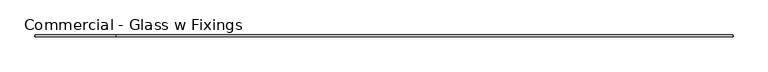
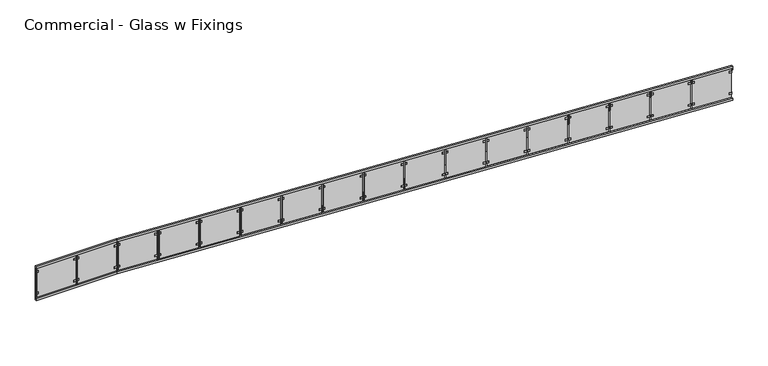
"""IFC4 building model written with IfcOpenShell, lengths in millimetres: railing geometry, Commercial - Glass w Fixings."""

from ifc_helpers import new_model, si_unit, frame, origin, place, context, project, spatial, polyline, outline, extrude, faceted_brep, source, transform, mapped, element, save


def commercial_glass_w_fixings_840375f0(model_context):
    return source(origin(), model_context, "Body", "SolidModel", [
        faceted_brep([(13424.6118628, -11016.1116245, 900.0), (13424.6118628, -11016.1116245, 849.9332611), (13424.6118628, -10966.1116245, 849.9332611), (13424.6118628, -10966.1116245, 900.0), (-2053.7738783, -10966.1116245, 1700.0), (-2053.7738783, -11016.1116245, 1700.0), (-2055.0651409, -10966.1116245, 1650.0), (-2055.0651409, -11016.1116245, 1650.0), (-4095.3881372, -11016.1116245, 1700.0), (-4095.3881372, -10966.1116245, 1700.0), (-4095.3881372, -10966.1116245, 1650.0), (-4095.3881372, -11016.1116245, 1650.0)], [[[0, 1, 2, 3]], [[4, 5, 0, 3]], [[6, 4, 3, 2]], [[7, 6, 2, 1]], [[5, 7, 1, 0]], [[8, 9, 10, 11]], [[9, 8, 5, 4]], [[10, 9, 4, 6]], [[11, 10, 6, 7]], [[8, 11, 7, 5]]]),
        faceted_brep([(13424.6118628, -11016.1116245, 50.0), (13424.6118628, -11016.1116245, -0.0667389), (13424.6118628, -10966.1116245, -0.0667389), (13424.6118628, -10966.1116245, 50.0), (-2053.7738783, -10966.1116245, 850.0), (-2053.7738783, -11016.1116245, 850.0), (-2055.0651409, -10966.1116245, 800.0), (-2055.0651409, -11016.1116245, 800.0), (-4095.3881372, -11016.1116245, 850.0), (-4095.3881372, -10966.1116245, 850.0), (-4095.3881372, -10966.1116245, 800.0), (-4095.3881372, -11016.1116245, 800.0)], [[[0, 1, 2, 3]], [[4, 5, 0, 3]], [[6, 4, 3, 2]], [[7, 6, 2, 1]], [[5, 7, 1, 0]], [[8, 9, 10, 11]], [[9, 8, 5, 4]], [[10, 9, 4, 6]], [[11, 10, 6, 7]], [[8, 11, 7, 5]]]),
        extrude(outline(polyline([(200.9910257, 13408.6656714), (204.0921243, 13348.6656714), (154.0253854, 13348.6656714), (150.9242868, 13408.6656714), (200.9910257, 13408.6656714)])), frame((0.0, -10997.1116245, 0.0), z_axis=(0.0, 1.0, 0.0), x_axis=(0.0, 0.0, 1.0)), (0.0, 0.0, 1.0), 12.0),
        extrude(outline(polyline([(775.6573313, 13408.6656714), (778.7584299, 13348.6656714), (728.691691, 13348.6656714), (725.5905924, 13408.6656714), (775.6573313, 13408.6656714)])), frame((0.0, -10997.1116245, 0.0), z_axis=(0.0, 1.0, 0.0), x_axis=(0.0, 0.0, 1.0)), (0.0, 0.0, 1.0), 12.0),
        extrude(outline(polyline([(202.6092631, 12408.6656714), (200.0250143, 12458.6656714), (250.0917532, 12458.6656714), (252.676002, 12408.6656714), (202.6092631, 12408.6656714)])), frame((0.0, -10997.1116245, 0.0), z_axis=(0.0, 1.0, 0.0), x_axis=(0.0, 0.0, 1.0)), (0.0, 0.0, 1.0), 12.0),
        extrude(outline(polyline([(777.2755687, 12408.6656714), (774.6913199, 12458.6656714), (824.7580588, 12458.6656714), (827.3423076, 12408.6656714), (777.2755687, 12408.6656714)])), frame((0.0, -10997.1116245, 0.0), z_axis=(0.0, 1.0, 0.0), x_axis=(0.0, 0.0, 1.0)), (0.0, 0.0, 1.0), 12.0),
        extrude(outline(polyline([(851.2742894, 13398.6656714), (901.9255662, 12418.6656714), (126.992305, 12418.6656714), (76.3410283, 13398.6656714), (851.2742894, 13398.6656714)])), frame((0.0, -10997.1116245, 0.0), z_axis=(0.0, 1.0, 0.0), x_axis=(0.0, 0.0, 1.0)), (0.0, 0.0, 1.0), 12.0),
        extrude(outline(polyline([(903.9126567, 12380.2194801), (800.0, 12380.2194801), (800.0, 12405.2194801), (902.6205323, 12405.2194801), (903.9126567, 12380.2194801)])), frame((0.0, -11003.6116245, 0.0), z_axis=(0.0, 1.0, 0.0), x_axis=(0.0, 0.0, 1.0)), (0.0, 0.0, 1.0), 25.0),
        extrude(outline(polyline([(254.3243591, 12376.7732887), (257.4254576, 12316.7732887), (207.3587188, 12316.7732887), (204.2576202, 12376.7732887), (254.3243591, 12376.7732887)])), frame((0.0, -10997.1116245, 0.0), z_axis=(0.0, 1.0, 0.0), x_axis=(0.0, 0.0, 1.0)), (0.0, 0.0, 1.0), 12.0),
        extrude(outline(polyline([(828.9906647, 12376.7732887), (832.0917632, 12316.7732887), (782.0250244, 12316.7732887), (778.9239258, 12376.7732887), (828.9906647, 12376.7732887)])), frame((0.0, -10997.1116245, 0.0), z_axis=(0.0, 1.0, 0.0), x_axis=(0.0, 0.0, 1.0)), (0.0, 0.0, 1.0), 12.0),
        extrude(outline(polyline([(255.9425965, 11376.7732887), (253.3583476, 11426.7732887), (303.4250865, 11426.7732887), (306.0093353, 11376.7732887), (255.9425965, 11376.7732887)])), frame((0.0, -10997.1116245, 0.0), z_axis=(0.0, 1.0, 0.0), x_axis=(0.0, 0.0, 1.0)), (0.0, 0.0, 1.0), 12.0),
        extrude(outline(polyline([(830.6089021, 11376.7732887), (828.0246533, 11426.7732887), (878.0913921, 11426.7732887), (880.6756409, 11376.7732887), (830.6089021, 11376.7732887)])), frame((0.0, -10997.1116245, 0.0), z_axis=(0.0, 1.0, 0.0), x_axis=(0.0, 0.0, 1.0)), (0.0, 0.0, 1.0), 12.0),
        extrude(outline(polyline([(904.6076227, 12366.7732887), (955.2588995, 11386.7732887), (180.3256384, 11386.7732887), (129.6743616, 12366.7732887), (904.6076227, 12366.7732887)])), frame((0.0, -10997.1116245, 0.0), z_axis=(0.0, 1.0, 0.0), x_axis=(0.0, 0.0, 1.0)), (0.0, 0.0, 1.0), 12.0),
        extrude(outline(polyline([(957.24599, 11348.3270973), (800.0, 11348.3270973), (800.0, 11373.3270973), (955.9538656, 11373.3270973), (957.24599, 11348.3270973)])), frame((0.0, -11003.6116245, 0.0), z_axis=(0.0, 1.0, 0.0), x_axis=(0.0, 0.0, 1.0)), (0.0, 0.0, 1.0), 25.0),
        extrude(outline(polyline([(307.6576924, 11344.880906), (310.758791, 11284.880906), (260.6920521, 11284.880906), (257.5909535, 11344.880906), (307.6576924, 11344.880906)])), frame((0.0, -10997.1116245, 0.0), z_axis=(0.0, 1.0, 0.0), x_axis=(0.0, 0.0, 1.0)), (0.0, 0.0, 1.0), 12.0),
        extrude(outline(polyline([(882.323998, 11344.880906), (885.4250966, 11284.880906), (835.3583577, 11284.880906), (832.2572591, 11344.880906), (882.323998, 11344.880906)])), frame((0.0, -10997.1116245, 0.0), z_axis=(0.0, 1.0, 0.0), x_axis=(0.0, 0.0, 1.0)), (0.0, 0.0, 1.0), 12.0),
        extrude(outline(polyline([(309.2759298, 10344.880906), (306.691681, 10394.880906), (356.7584199, 10394.880906), (359.3426687, 10344.880906), (309.2759298, 10344.880906)])), frame((0.0, -10997.1116245, 0.0), z_axis=(0.0, 1.0, 0.0), x_axis=(0.0, 0.0, 1.0)), (0.0, 0.0, 1.0), 12.0),
        extrude(outline(polyline([(883.9422354, 10344.880906), (881.3579866, 10394.880906), (931.4247255, 10394.880906), (934.0089743, 10344.880906), (883.9422354, 10344.880906)])), frame((0.0, -10997.1116245, 0.0), z_axis=(0.0, 1.0, 0.0), x_axis=(0.0, 0.0, 1.0)), (0.0, 0.0, 1.0), 12.0),
        extrude(outline(polyline([(957.9409561, 11334.880906), (1008.5922328, 10354.880906), (233.6589717, 10354.880906), (183.007695, 11334.880906), (957.9409561, 11334.880906)])), frame((0.0, -10997.1116245, 0.0), z_axis=(0.0, 1.0, 0.0), x_axis=(0.0, 0.0, 1.0)), (0.0, 0.0, 1.0), 12.0),
        extrude(outline(polyline([(1010.5793233, 10316.4347146), (800.0, 10316.4347146), (800.0, 10341.4347146), (1009.2871989, 10341.4347146), (1010.5793233, 10316.4347146)])), frame((0.0, -11003.6116245, 0.0), z_axis=(0.0, 1.0, 0.0), x_axis=(0.0, 0.0, 1.0)), (0.0, 0.0, 1.0), 25.0),
        extrude(outline(polyline([(360.9910257, 10312.9885232), (364.0921243, 10252.9885232), (314.0253854, 10252.9885232), (310.9242868, 10312.9885232), (360.9910257, 10312.9885232)])), frame((0.0, -10997.1116245, 0.0), z_axis=(0.0, 1.0, 0.0), x_axis=(0.0, 0.0, 1.0)), (0.0, 0.0, 1.0), 12.0),
        extrude(outline(polyline([(935.6573313, 10312.9885232), (938.7584299, 10252.9885232), (888.691691, 10252.9885232), (885.5905924, 10312.9885232), (935.6573313, 10312.9885232)])), frame((0.0, -10997.1116245, 0.0), z_axis=(0.0, 1.0, 0.0), x_axis=(0.0, 0.0, 1.0)), (0.0, 0.0, 1.0), 12.0),
        extrude(outline(polyline([(362.6092631, 9312.9885232), (360.0250143, 9362.9885232), (410.0917532, 9362.9885232), (412.676002, 9312.9885232), (362.6092631, 9312.9885232)])), frame((0.0, -10997.1116245, 0.0), z_axis=(0.0, 1.0, 0.0), x_axis=(0.0, 0.0, 1.0)), (0.0, 0.0, 1.0), 12.0),
        extrude(outline(polyline([(937.2755687, 9312.9885232), (934.6913199, 9362.9885232), (984.7580588, 9362.9885232), (987.3423076, 9312.9885232), (937.2755687, 9312.9885232)])), frame((0.0, -10997.1116245, 0.0), z_axis=(0.0, 1.0, 0.0), x_axis=(0.0, 0.0, 1.0)), (0.0, 0.0, 1.0), 12.0),
        extrude(outline(polyline([(1011.2742894, 10302.9885232), (1061.9255662, 9322.9885232), (286.992305, 9322.9885232), (236.3410283, 10302.9885232), (1011.2742894, 10302.9885232)])), frame((0.0, -10997.1116245, 0.0), z_axis=(0.0, 1.0, 0.0), x_axis=(0.0, 0.0, 1.0)), (0.0, 0.0, 1.0), 12.0),
        extrude(outline(polyline([(1063.9126567, 9284.5423319), (800.0, 9284.5423319), (800.0, 9309.5423319), (1062.6205323, 9309.5423319), (1063.9126567, 9284.5423319)])), frame((0.0, -11003.6116245, 0.0), z_axis=(0.0, 1.0, 0.0), x_axis=(0.0, 0.0, 1.0)), (0.0, 0.0, 1.0), 25.0),
        extrude(outline(polyline([(414.3243591, 9281.0961405), (417.4254576, 9221.0961405), (367.3587188, 9221.0961405), (364.2576202, 9281.0961405), (414.3243591, 9281.0961405)])), frame((0.0, -10997.1116245, 0.0), z_axis=(0.0, 1.0, 0.0), x_axis=(0.0, 0.0, 1.0)), (0.0, 0.0, 1.0), 12.0),
        extrude(outline(polyline([(988.9906647, 9281.0961405), (992.0917632, 9221.0961405), (942.0250244, 9221.0961405), (938.9239258, 9281.0961405), (988.9906647, 9281.0961405)])), frame((0.0, -10997.1116245, 0.0), z_axis=(0.0, 1.0, 0.0), x_axis=(0.0, 0.0, 1.0)), (0.0, 0.0, 1.0), 12.0),
        extrude(outline(polyline([(415.9425965, 8281.0961405), (413.3583476, 8331.0961405), (463.4250865, 8331.0961405), (466.0093353, 8281.0961405), (415.9425965, 8281.0961405)])), frame((0.0, -10997.1116245, 0.0), z_axis=(0.0, 1.0, 0.0), x_axis=(0.0, 0.0, 1.0)), (0.0, 0.0, 1.0), 12.0),
        extrude(outline(polyline([(990.6089021, 8281.0961405), (988.0246533, 8331.0961405), (1038.0913921, 8331.0961405), (1040.6756409, 8281.0961405), (990.6089021, 8281.0961405)])), frame((0.0, -10997.1116245, 0.0), z_axis=(0.0, 1.0, 0.0), x_axis=(0.0, 0.0, 1.0)), (0.0, 0.0, 1.0), 12.0),
        extrude(outline(polyline([(1064.6076227, 9271.0961405), (1115.2588995, 8291.0961405), (340.3256384, 8291.0961405), (289.6743616, 9271.0961405), (1064.6076227, 9271.0961405)])), frame((0.0, -10997.1116245, 0.0), z_axis=(0.0, 1.0, 0.0), x_axis=(0.0, 0.0, 1.0)), (0.0, 0.0, 1.0), 12.0),
        extrude(outline(polyline([(1117.24599, 8252.6499491), (800.0, 8252.6499491), (800.0, 8277.6499491), (1115.9538656, 8277.6499491), (1117.24599, 8252.6499491)])), frame((0.0, -11003.6116245, 0.0), z_axis=(0.0, 1.0, 0.0), x_axis=(0.0, 0.0, 1.0)), (0.0, 0.0, 1.0), 25.0),
        extrude(outline(polyline([(467.6576924, 8249.2037577), (470.758791, 8189.2037577), (420.6920521, 8189.2037577), (417.5909535, 8249.2037577), (467.6576924, 8249.2037577)])), frame((0.0, -10997.1116245, 0.0), z_axis=(0.0, 1.0, 0.0), x_axis=(0.0, 0.0, 1.0)), (0.0, 0.0, 1.0), 12.0),
        extrude(outline(polyline([(1042.323998, 8249.2037577), (1045.4250966, 8189.2037577), (995.3583577, 8189.2037577), (992.2572591, 8249.2037577), (1042.323998, 8249.2037577)])), frame((0.0, -10997.1116245, 0.0), z_axis=(0.0, 1.0, 0.0), x_axis=(0.0, 0.0, 1.0)), (0.0, 0.0, 1.0), 12.0),
        extrude(outline(polyline([(469.2759298, 7249.2037577), (466.691681, 7299.2037577), (516.7584199, 7299.2037577), (519.3426687, 7249.2037577), (469.2759298, 7249.2037577)])), frame((0.0, -10997.1116245, 0.0), z_axis=(0.0, 1.0, 0.0), x_axis=(0.0, 0.0, 1.0)), (0.0, 0.0, 1.0), 12.0),
        extrude(outline(polyline([(1043.9422354, 7249.2037577), (1041.3579866, 7299.2037577), (1091.4247255, 7299.2037577), (1094.0089743, 7249.2037577), (1043.9422354, 7249.2037577)])), frame((0.0, -10997.1116245, 0.0), z_axis=(0.0, 1.0, 0.0), x_axis=(0.0, 0.0, 1.0)), (0.0, 0.0, 1.0), 12.0),
        extrude(outline(polyline([(1117.9409561, 8239.2037577), (1168.5922328, 7259.2037577), (393.6589717, 7259.2037577), (343.007695, 8239.2037577), (1117.9409561, 8239.2037577)])), frame((0.0, -10997.1116245, 0.0), z_axis=(0.0, 1.0, 0.0), x_axis=(0.0, 0.0, 1.0)), (0.0, 0.0, 1.0), 12.0),
        extrude(outline(polyline([(1170.5793233, 7220.7575664), (800.0, 7220.7575664), (800.0, 7245.7575664), (1169.2871989, 7245.7575664), (1170.5793233, 7220.7575664)])), frame((0.0, -11003.6116245, 0.0), z_axis=(0.0, 1.0, 0.0), x_axis=(0.0, 0.0, 1.0)), (0.0, 0.0, 1.0), 25.0),
        extrude(outline(polyline([(520.9910257, 7217.311375), (524.0921243, 7157.311375), (474.0253854, 7157.311375), (470.9242868, 7217.311375), (520.9910257, 7217.311375)])), frame((0.0, -10997.1116245, 0.0), z_axis=(0.0, 1.0, 0.0), x_axis=(0.0, 0.0, 1.0)), (0.0, 0.0, 1.0), 12.0),
        extrude(outline(polyline([(1095.6573313, 7217.311375), (1098.7584299, 7157.311375), (1048.691691, 7157.311375), (1045.5905924, 7217.311375), (1095.6573313, 7217.311375)])), frame((0.0, -10997.1116245, 0.0), z_axis=(0.0, 1.0, 0.0), x_axis=(0.0, 0.0, 1.0)), (0.0, 0.0, 1.0), 12.0),
        extrude(outline(polyline([(522.6092631, 6217.311375), (520.0250143, 6267.311375), (570.0917532, 6267.311375), (572.676002, 6217.311375), (522.6092631, 6217.311375)])), frame((0.0, -10997.1116245, 0.0), z_axis=(0.0, 1.0, 0.0), x_axis=(0.0, 0.0, 1.0)), (0.0, 0.0, 1.0), 12.0),
        extrude(outline(polyline([(1097.2755687, 6217.311375), (1094.6913199, 6267.311375), (1144.7580588, 6267.311375), (1147.3423076, 6217.311375), (1097.2755687, 6217.311375)])), frame((0.0, -10997.1116245, 0.0), z_axis=(0.0, 1.0, 0.0), x_axis=(0.0, 0.0, 1.0)), (0.0, 0.0, 1.0), 12.0),
        extrude(outline(polyline([(1171.2742894, 7207.311375), (1221.9255662, 6227.311375), (446.992305, 6227.311375), (396.3410283, 7207.311375), (1171.2742894, 7207.311375)])), frame((0.0, -10997.1116245, 0.0), z_axis=(0.0, 1.0, 0.0), x_axis=(0.0, 0.0, 1.0)), (0.0, 0.0, 1.0), 12.0),
        extrude(outline(polyline([(1223.9126567, 6188.8651836), (800.0, 6188.8651836), (800.0, 6213.8651836), (1222.6205323, 6213.8651836), (1223.9126567, 6188.8651836)])), frame((0.0, -11003.6116245, 0.0), z_axis=(0.0, 1.0, 0.0), x_axis=(0.0, 0.0, 1.0)), (0.0, 0.0, 1.0), 25.0),
        extrude(outline(polyline([(574.3243591, 6185.4189923), (577.4254576, 6125.4189923), (527.3587188, 6125.4189923), (524.2576202, 6185.4189923), (574.3243591, 6185.4189923)])), frame((0.0, -10997.1116245, 0.0), z_axis=(0.0, 1.0, 0.0), x_axis=(0.0, 0.0, 1.0)), (0.0, 0.0, 1.0), 12.0),
        extrude(outline(polyline([(1148.9906647, 6185.4189923), (1152.0917632, 6125.4189923), (1102.0250244, 6125.4189923), (1098.9239258, 6185.4189923), (1148.9906647, 6185.4189923)])), frame((0.0, -10997.1116245, 0.0), z_axis=(0.0, 1.0, 0.0), x_axis=(0.0, 0.0, 1.0)), (0.0, 0.0, 1.0), 12.0),
        extrude(outline(polyline([(575.9425965, 5185.4189923), (573.3583476, 5235.4189923), (623.4250865, 5235.4189923), (626.0093353, 5185.4189923), (575.9425965, 5185.4189923)])), frame((0.0, -10997.1116245, 0.0), z_axis=(0.0, 1.0, 0.0), x_axis=(0.0, 0.0, 1.0)), (0.0, 0.0, 1.0), 12.0),
        extrude(outline(polyline([(1150.6089021, 5185.4189923), (1148.0246533, 5235.4189923), (1198.0913921, 5235.4189923), (1200.6756409, 5185.4189923), (1150.6089021, 5185.4189923)])), frame((0.0, -10997.1116245, 0.0), z_axis=(0.0, 1.0, 0.0), x_axis=(0.0, 0.0, 1.0)), (0.0, 0.0, 1.0), 12.0),
        extrude(outline(polyline([(1224.6076227, 6175.4189923), (1275.2588995, 5195.4189923), (500.3256384, 5195.4189923), (449.6743616, 6175.4189923), (1224.6076227, 6175.4189923)])), frame((0.0, -10997.1116245, 0.0), z_axis=(0.0, 1.0, 0.0), x_axis=(0.0, 0.0, 1.0)), (0.0, 0.0, 1.0), 12.0),
        extrude(outline(polyline([(1277.24599, 5156.9728009), (800.0, 5156.9728009), (800.0, 5181.9728009), (1275.9538656, 5181.9728009), (1277.24599, 5156.9728009)])), frame((0.0, -11003.6116245, 0.0), z_axis=(0.0, 1.0, 0.0), x_axis=(0.0, 0.0, 1.0)), (0.0, 0.0, 1.0), 25.0),
        extrude(outline(polyline([(627.6576924, 5153.5266095), (630.758791, 5093.5266095), (580.6920521, 5093.5266095), (577.5909535, 5153.5266095), (627.6576924, 5153.5266095)])), frame((0.0, -10997.1116245, 0.0), z_axis=(0.0, 1.0, 0.0), x_axis=(0.0, 0.0, 1.0)), (0.0, 0.0, 1.0), 12.0),
        extrude(outline(polyline([(1202.323998, 5153.5266095), (1205.4250966, 5093.5266095), (1155.3583577, 5093.5266095), (1152.2572591, 5153.5266095), (1202.323998, 5153.5266095)])), frame((0.0, -10997.1116245, 0.0), z_axis=(0.0, 1.0, 0.0), x_axis=(0.0, 0.0, 1.0)), (0.0, 0.0, 1.0), 12.0),
        extrude(outline(polyline([(629.2759298, 4153.5266095), (626.691681, 4203.5266095), (676.7584199, 4203.5266095), (679.3426687, 4153.5266095), (629.2759298, 4153.5266095)])), frame((0.0, -10997.1116245, 0.0), z_axis=(0.0, 1.0, 0.0), x_axis=(0.0, 0.0, 1.0)), (0.0, 0.0, 1.0), 12.0),
        extrude(outline(polyline([(1203.9422354, 4153.5266095), (1201.3579866, 4203.5266095), (1251.4247255, 4203.5266095), (1254.0089743, 4153.5266095), (1203.9422354, 4153.5266095)])), frame((0.0, -10997.1116245, 0.0), z_axis=(0.0, 1.0, 0.0), x_axis=(0.0, 0.0, 1.0)), (0.0, 0.0, 1.0), 12.0),
        extrude(outline(polyline([(1277.9409561, 5143.5266095), (1328.5922328, 4163.5266095), (553.6589717, 4163.5266095), (503.007695, 5143.5266095), (1277.9409561, 5143.5266095)])), frame((0.0, -10997.1116245, 0.0), z_axis=(0.0, 1.0, 0.0), x_axis=(0.0, 0.0, 1.0)), (0.0, 0.0, 1.0), 12.0),
        extrude(outline(polyline([(1330.5793233, 4125.0804182), (800.0, 4125.0804182), (800.0, 4150.0804182), (1329.2871989, 4150.0804182), (1330.5793233, 4125.0804182)])), frame((0.0, -11003.6116245, 0.0), z_axis=(0.0, 1.0, 0.0), x_axis=(0.0, 0.0, 1.0)), (0.0, 0.0, 1.0), 25.0),
        extrude(outline(polyline([(680.9910257, 4121.6342268), (684.0921243, 4061.6342268), (634.0253854, 4061.6342268), (630.9242868, 4121.6342268), (680.9910257, 4121.6342268)])), frame((0.0, -10997.1116245, 0.0), z_axis=(0.0, 1.0, 0.0), x_axis=(0.0, 0.0, 1.0)), (0.0, 0.0, 1.0), 12.0),
        extrude(outline(polyline([(1255.6573313, 4121.6342268), (1258.7584299, 4061.6342268), (1208.691691, 4061.6342268), (1205.5905924, 4121.6342268), (1255.6573313, 4121.6342268)])), frame((0.0, -10997.1116245, 0.0), z_axis=(0.0, 1.0, 0.0), x_axis=(0.0, 0.0, 1.0)), (0.0, 0.0, 1.0), 12.0),
        extrude(outline(polyline([(682.6092631, 3121.6342268), (680.0250143, 3171.6342268), (730.0917532, 3171.6342268), (732.676002, 3121.6342268), (682.6092631, 3121.6342268)])), frame((0.0, -10997.1116245, 0.0), z_axis=(0.0, 1.0, 0.0), x_axis=(0.0, 0.0, 1.0)), (0.0, 0.0, 1.0), 12.0),
        extrude(outline(polyline([(1257.2755687, 3121.6342268), (1254.6913199, 3171.6342268), (1304.7580588, 3171.6342268), (1307.3423076, 3121.6342268), (1257.2755687, 3121.6342268)])), frame((0.0, -10997.1116245, 0.0), z_axis=(0.0, 1.0, 0.0), x_axis=(0.0, 0.0, 1.0)), (0.0, 0.0, 1.0), 12.0),
        extrude(outline(polyline([(1331.2742894, 4111.6342268), (1381.9255662, 3131.6342268), (606.992305, 3131.6342268), (556.3410283, 4111.6342268), (1331.2742894, 4111.6342268)])), frame((0.0, -10997.1116245, 0.0), z_axis=(0.0, 1.0, 0.0), x_axis=(0.0, 0.0, 1.0)), (0.0, 0.0, 1.0), 12.0),
        extrude(outline(polyline([(1383.9126567, 3093.1880354), (800.0, 3093.1880354), (800.0, 3118.1880354), (1382.6205323, 3118.1880354), (1383.9126567, 3093.1880354)])), frame((0.0, -11003.6116245, 0.0), z_axis=(0.0, 1.0, 0.0), x_axis=(0.0, 0.0, 1.0)), (0.0, 0.0, 1.0), 25.0),
        extrude(outline(polyline([(734.3243591, 3089.741844), (737.4254576, 3029.741844), (687.3587188, 3029.741844), (684.2576202, 3089.741844), (734.3243591, 3089.741844)])), frame((0.0, -10997.1116245, 0.0), z_axis=(0.0, 1.0, 0.0), x_axis=(0.0, 0.0, 1.0)), (0.0, 0.0, 1.0), 12.0),
        extrude(outline(polyline([(1308.9906647, 3089.741844), (1312.0917632, 3029.741844), (1262.0250244, 3029.741844), (1258.9239258, 3089.741844), (1308.9906647, 3089.741844)])), frame((0.0, -10997.1116245, 0.0), z_axis=(0.0, 1.0, 0.0), x_axis=(0.0, 0.0, 1.0)), (0.0, 0.0, 1.0), 12.0),
        extrude(outline(polyline([(735.9425965, 2089.741844), (733.3583476, 2139.741844), (783.4250865, 2139.741844), (786.0093353, 2089.741844), (735.9425965, 2089.741844)])), frame((0.0, -10997.1116245, 0.0), z_axis=(0.0, 1.0, 0.0), x_axis=(0.0, 0.0, 1.0)), (0.0, 0.0, 1.0), 12.0),
        extrude(outline(polyline([(1310.6089021, 2089.741844), (1308.0246533, 2139.741844), (1358.0913921, 2139.741844), (1360.6756409, 2089.741844), (1310.6089021, 2089.741844)])), frame((0.0, -10997.1116245, 0.0), z_axis=(0.0, 1.0, 0.0), x_axis=(0.0, 0.0, 1.0)), (0.0, 0.0, 1.0), 12.0),
        extrude(outline(polyline([(1384.6076227, 3079.741844), (1435.2588995, 2099.741844), (660.3256384, 2099.741844), (609.6743616, 3079.741844), (1384.6076227, 3079.741844)])), frame((0.0, -10997.1116245, 0.0), z_axis=(0.0, 1.0, 0.0), x_axis=(0.0, 0.0, 1.0)), (0.0, 0.0, 1.0), 12.0),
        extrude(outline(polyline([(1437.24599, 2061.2956527), (800.0, 2061.2956527), (800.0, 2086.2956527), (1435.9538656, 2086.2956527), (1437.24599, 2061.2956527)])), frame((0.0, -11003.6116245, 0.0), z_axis=(0.0, 1.0, 0.0), x_axis=(0.0, 0.0, 1.0)), (0.0, 0.0, 1.0), 25.0),
        extrude(outline(polyline([(787.6576924, 2057.8494613), (790.758791, 1997.8494613), (740.6920521, 1997.8494613), (737.5909535, 2057.8494613), (787.6576924, 2057.8494613)])), frame((0.0, -10997.1116245, 0.0), z_axis=(0.0, 1.0, 0.0), x_axis=(0.0, 0.0, 1.0)), (0.0, 0.0, 1.0), 12.0),
        extrude(outline(polyline([(1362.323998, 2057.8494613), (1365.4250966, 1997.8494613), (1315.3583577, 1997.8494613), (1312.2572591, 2057.8494613), (1362.323998, 2057.8494613)])), frame((0.0, -10997.1116245, 0.0), z_axis=(0.0, 1.0, 0.0), x_axis=(0.0, 0.0, 1.0)), (0.0, 0.0, 1.0), 12.0),
        extrude(outline(polyline([(789.2759298, 1057.8494613), (786.691681, 1107.8494613), (836.7584199, 1107.8494613), (839.3426687, 1057.8494613), (789.2759298, 1057.8494613)])), frame((0.0, -10997.1116245, 0.0), z_axis=(0.0, 1.0, 0.0), x_axis=(0.0, 0.0, 1.0)), (0.0, 0.0, 1.0), 12.0),
        extrude(outline(polyline([(1363.9422354, 1057.8494613), (1361.3579866, 1107.8494613), (1411.4247255, 1107.8494613), (1414.0089743, 1057.8494613), (1363.9422354, 1057.8494613)])), frame((0.0, -10997.1116245, 0.0), z_axis=(0.0, 1.0, 0.0), x_axis=(0.0, 0.0, 1.0)), (0.0, 0.0, 1.0), 12.0),
        extrude(outline(polyline([(1437.9409561, 2047.8494613), (1488.5922328, 1067.8494613), (713.6589717, 1067.8494613), (663.007695, 2047.8494613), (1437.9409561, 2047.8494613)])), frame((0.0, -10997.1116245, 0.0), z_axis=(0.0, 1.0, 0.0), x_axis=(0.0, 0.0, 1.0)), (0.0, 0.0, 1.0), 12.0),
        extrude(outline(polyline([(1490.5793233, 1029.4032699), (800.0, 1029.4032699), (800.0, 1054.4032699), (1489.2871989, 1054.4032699), (1490.5793233, 1029.4032699)])), frame((0.0, -11003.6116245, 0.0), z_axis=(0.0, 1.0, 0.0), x_axis=(0.0, 0.0, 1.0)), (0.0, 0.0, 1.0), 25.0),
        extrude(outline(polyline([(840.9910257, 1025.9570786), (844.0921243, 965.9570786), (794.0253854, 965.9570786), (790.9242868, 1025.9570786), (840.9910257, 1025.9570786)])), frame((0.0, -10997.1116245, 0.0), z_axis=(0.0, 1.0, 0.0), x_axis=(0.0, 0.0, 1.0)), (0.0, 0.0, 1.0), 12.0),
        extrude(outline(polyline([(1415.6573313, 1025.9570786), (1418.7584299, 965.9570786), (1368.691691, 965.9570786), (1365.5905924, 1025.9570786), (1415.6573313, 1025.9570786)])), frame((0.0, -10997.1116245, 0.0), z_axis=(0.0, 1.0, 0.0), x_axis=(0.0, 0.0, 1.0)), (0.0, 0.0, 1.0), 12.0),
        extrude(outline(polyline([(842.6092631, 25.9570786), (840.0250143, 75.9570786), (890.0917532, 75.9570786), (892.676002, 25.9570786), (842.6092631, 25.9570786)])), frame((0.0, -10997.1116245, 0.0), z_axis=(0.0, 1.0, 0.0), x_axis=(0.0, 0.0, 1.0)), (0.0, 0.0, 1.0), 12.0),
        extrude(outline(polyline([(1417.2755687, 25.9570786), (1414.6913199, 75.9570786), (1464.7580588, 75.9570786), (1467.3423076, 25.9570786), (1417.2755687, 25.9570786)])), frame((0.0, -10997.1116245, 0.0), z_axis=(0.0, 1.0, 0.0), x_axis=(0.0, 0.0, 1.0)), (0.0, 0.0, 1.0), 12.0),
        extrude(outline(polyline([(1491.2742894, 1015.9570786), (1541.9255662, 35.9570786), (766.992305, 35.9570786), (716.3410283, 1015.9570786), (1491.2742894, 1015.9570786)])), frame((0.0, -10997.1116245, 0.0), z_axis=(0.0, 1.0, 0.0), x_axis=(0.0, 0.0, 1.0)), (0.0, 0.0, 1.0), 12.0),
        extrude(outline(polyline([(1543.9126567, -2.4891128), (800.0, -2.4891128), (800.0, 22.5108872), (1542.6205323, 22.5108872), (1543.9126567, -2.4891128)])), frame((0.0, -11003.6116245, 0.0), z_axis=(0.0, 1.0, 0.0), x_axis=(0.0, 0.0, 1.0)), (0.0, 0.0, 1.0), 25.0),
        extrude(outline(polyline([(894.3243591, -5.9353042), (897.4254576, -65.9353042), (847.3587188, -65.9353042), (844.2576202, -5.9353042), (894.3243591, -5.9353042)])), frame((0.0, -10997.1116245, 0.0), z_axis=(0.0, 1.0, 0.0), x_axis=(0.0, 0.0, 1.0)), (0.0, 0.0, 1.0), 12.0),
        extrude(outline(polyline([(1468.9906647, -5.9353042), (1472.0917632, -65.9353042), (1422.0250244, -65.9353042), (1418.9239258, -5.9353042), (1468.9906647, -5.9353042)])), frame((0.0, -10997.1116245, 0.0), z_axis=(0.0, 1.0, 0.0), x_axis=(0.0, 0.0, 1.0)), (0.0, 0.0, 1.0), 12.0),
        extrude(outline(polyline([(895.9425965, -1005.9353042), (893.3583476, -955.9353042), (943.4250865, -955.9353042), (946.0093353, -1005.9353042), (895.9425965, -1005.9353042)])), frame((0.0, -10997.1116245, 0.0), z_axis=(0.0, 1.0, 0.0), x_axis=(0.0, 0.0, 1.0)), (0.0, 0.0, 1.0), 12.0),
        extrude(outline(polyline([(1470.6089021, -1005.9353042), (1468.0246533, -955.9353042), (1518.0913921, -955.9353042), (1520.6756409, -1005.9353042), (1470.6089021, -1005.9353042)])), frame((0.0, -10997.1116245, 0.0), z_axis=(0.0, 1.0, 0.0), x_axis=(0.0, 0.0, 1.0)), (0.0, 0.0, 1.0), 12.0),
        extrude(outline(polyline([(1544.6076227, -15.9353042), (1595.2588995, -995.9353042), (820.3256384, -995.9353042), (769.6743616, -15.9353042), (1544.6076227, -15.9353042)])), frame((0.0, -10997.1116245, 0.0), z_axis=(0.0, 1.0, 0.0), x_axis=(0.0, 0.0, 1.0)), (0.0, 0.0, 1.0), 12.0),
        extrude(outline(polyline([(1597.24599, -1034.3814955), (800.0, -1034.3814955), (800.0, -1009.3814955), (1595.9538656, -1009.3814955), (1597.24599, -1034.3814955)])), frame((0.0, -11003.6116245, 0.0), z_axis=(0.0, 1.0, 0.0), x_axis=(0.0, 0.0, 1.0)), (0.0, 0.0, 1.0), 25.0),
        extrude(outline(polyline([(947.6576924, -1037.8276869), (950.758791, -1097.8276869), (900.6920521, -1097.8276869), (897.5909535, -1037.8276869), (947.6576924, -1037.8276869)])), frame((0.0, -10997.1116245, 0.0), z_axis=(0.0, 1.0, 0.0), x_axis=(0.0, 0.0, 1.0)), (0.0, 0.0, 1.0), 12.0),
        extrude(outline(polyline([(1522.323998, -1037.8276869), (1525.4250966, -1097.8276869), (1475.3583577, -1097.8276869), (1472.2572591, -1037.8276869), (1522.323998, -1037.8276869)])), frame((0.0, -10997.1116245, 0.0), z_axis=(0.0, 1.0, 0.0), x_axis=(0.0, 0.0, 1.0)), (0.0, 0.0, 1.0), 12.0),
        extrude(outline(polyline([(949.2759298, -2037.8276869), (946.691681, -1987.8276869), (996.7584199, -1987.8276869), (999.3426687, -2037.8276869), (949.2759298, -2037.8276869)])), frame((0.0, -10997.1116245, 0.0), z_axis=(0.0, 1.0, 0.0), x_axis=(0.0, 0.0, 1.0)), (0.0, 0.0, 1.0), 12.0),
        extrude(outline(polyline([(1523.9422354, -2037.8276869), (1521.3579866, -1987.8276869), (1571.4247255, -1987.8276869), (1574.0089743, -2037.8276869), (1523.9422354, -2037.8276869)])), frame((0.0, -10997.1116245, 0.0), z_axis=(0.0, 1.0, 0.0), x_axis=(0.0, 0.0, 1.0)), (0.0, 0.0, 1.0), 12.0),
        extrude(outline(polyline([(1597.9409561, -1047.8276869), (1648.5922328, -2027.8276869), (873.6589717, -2027.8276869), (823.007695, -1047.8276869), (1597.9409561, -1047.8276869)])), frame((0.0, -10997.1116245, 0.0), z_axis=(0.0, 1.0, 0.0), x_axis=(0.0, 0.0, 1.0)), (0.0, 0.0, 1.0), 12.0),
        extrude(outline(polyline([(-2124.177443, -10985.1116245), (-2064.177443, -10985.1116245), (-2064.177443, -10997.1116245), (-2124.177443, -10997.1116245), (-2124.177443, -10985.1116245)])), frame((0.0, 0.0, 950.0), z_axis=(0.0, 0.0, 1.0), x_axis=(1.0, 0.0, 0.0)), (0.0, 0.0, 1.0), 50.0),
        extrude(outline(polyline([(-2124.177443, -10985.1116245), (-2064.177443, -10985.1116245), (-2064.177443, -10997.1116245), (-2124.177443, -10997.1116245), (-2124.177443, -10985.1116245)])), frame((0.0, 0.0, 1525.0), z_axis=(0.0, 0.0, 1.0), x_axis=(1.0, 0.0, 0.0)), (0.0, 0.0, 1.0), 50.0),
        extrude(outline(polyline([(-3064.177443, -10985.1116245), (-3014.177443, -10985.1116245), (-3014.177443, -10997.1116245), (-3064.177443, -10997.1116245), (-3064.177443, -10985.1116245)])), frame((0.0, 0.0, 950.0), z_axis=(0.0, 0.0, 1.0), x_axis=(1.0, 0.0, 0.0)), (0.0, 0.0, 1.0), 50.0),
        extrude(outline(polyline([(-3064.177443, -10985.1116245), (-3014.177443, -10985.1116245), (-3014.177443, -10997.1116245), (-3064.177443, -10997.1116245), (-3064.177443, -10985.1116245)])), frame((0.0, 0.0, 1525.0), z_axis=(0.0, 0.0, 1.0), x_axis=(1.0, 0.0, 0.0)), (0.0, 0.0, 1.0), 50.0),
        extrude(outline(polyline([(-3054.177443, -10985.1116245), (-2074.177443, -10985.1116245), (-2074.177443, -10997.1116245), (-3054.177443, -10997.1116245), (-3054.177443, -10985.1116245)])), frame((0.0, 0.0, 875.0), z_axis=(0.0, 0.0, 1.0), x_axis=(1.0, 0.0, 0.0)), (0.0, 0.0, 1.0), 775.0),
        extrude(outline(polyline([(-3087.0810077, -11003.6116245), (-3087.0810077, -10978.6116245), (-3062.0810077, -10978.6116245), (-3062.0810077, -11003.6116245), (-3087.0810077, -11003.6116245)])), frame((0.0, 0.0, 850.0), z_axis=(0.0, 0.0, 1.0), x_axis=(1.0, 0.0, 0.0)), (0.0, 0.0, 1.0), 800.0),
        extrude(outline(polyline([(-3144.9845725, -10985.1116245), (-3084.9845725, -10985.1116245), (-3084.9845725, -10997.1116245), (-3144.9845725, -10997.1116245), (-3144.9845725, -10985.1116245)])), frame((0.0, 0.0, 950.0), z_axis=(0.0, 0.0, 1.0), x_axis=(1.0, 0.0, 0.0)), (0.0, 0.0, 1.0), 50.0),
        extrude(outline(polyline([(-3144.9845725, -10985.1116245), (-3084.9845725, -10985.1116245), (-3084.9845725, -10997.1116245), (-3144.9845725, -10997.1116245), (-3144.9845725, -10985.1116245)])), frame((0.0, 0.0, 1525.0), z_axis=(0.0, 0.0, 1.0), x_axis=(1.0, 0.0, 0.0)), (0.0, 0.0, 1.0), 50.0),
        extrude(outline(polyline([(-4084.9845725, -10985.1116245), (-4034.9845725, -10985.1116245), (-4034.9845725, -10997.1116245), (-4084.9845725, -10997.1116245), (-4084.9845725, -10985.1116245)])), frame((0.0, 0.0, 950.0), z_axis=(0.0, 0.0, 1.0), x_axis=(1.0, 0.0, 0.0)), (0.0, 0.0, 1.0), 50.0),
        extrude(outline(polyline([(-4084.9845725, -10985.1116245), (-4034.9845725, -10985.1116245), (-4034.9845725, -10997.1116245), (-4084.9845725, -10997.1116245), (-4084.9845725, -10985.1116245)])), frame((0.0, 0.0, 1525.0), z_axis=(0.0, 0.0, 1.0), x_axis=(1.0, 0.0, 0.0)), (0.0, 0.0, 1.0), 50.0),
        extrude(outline(polyline([(-4074.9845725, -10985.1116245), (-3094.9845725, -10985.1116245), (-3094.9845725, -10997.1116245), (-4074.9845725, -10997.1116245), (-4074.9845725, -10985.1116245)])), frame((0.0, 0.0, 875.0), z_axis=(0.0, 0.0, 1.0), x_axis=(1.0, 0.0, 0.0)), (0.0, 0.0, 1.0), 775.0),
        extrude(outline(polyline([(-2057.7738783, -11008.6116245), (-2057.7738783, -10973.6116245), (-2049.7738783, -10973.6116245), (-2049.7738783, -11008.6116245), (-2057.7738783, -11008.6116245)])), frame((0.0, 0.0, 850.0), z_axis=(0.0, 0.0, 1.0), x_axis=(1.0, 0.0, 0.0)), (0.0, 0.0, 1.0), 800.0),
        extrude(outline(polyline([(850.140001, 13420.6118628), (800.0, 13420.6118628), (800.0, 13428.6118628), (849.7265212, 13428.6118628), (850.140001, 13420.6118628)])), frame((0.0, -11008.6116245, 0.0), z_axis=(0.0, 1.0, 0.0), x_axis=(0.0, 0.0, 1.0)), (0.0, 0.0, 1.0), 35.0),
        extrude(outline(polyline([(-4099.3881372, -11008.6116245), (-4099.3881372, -10973.6116245), (-4091.3881372, -10973.6116245), (-4091.3881372, -11008.6116245), (-4099.3881372, -11008.6116245)])), frame((0.0, 0.0, 850.0), z_axis=(0.0, 0.0, 1.0), x_axis=(1.0, 0.0, 0.0)), (0.0, 0.0, 1.0), 800.0),
    ])


if __name__ == "__main__":
    model = new_model("IFC4")
    model_context = context("Model", 3, world=origin())
    ifc_project = project(units=[si_unit("LENGTHUNIT", "METRE", prefix="MILLI")], contexts=[model_context])
    site = spatial("IfcSite", under=ifc_project)
    building = spatial("IfcBuilding", under=site)
    placement = place(None, origin())
    commercial_glass_w_fixings_shape = commercial_glass_w_fixings_840375f0(model_context)
    element("IfcRailing", 1, ObjectType="Commercial - Glass w Fixings", at=placement, inside=building, context=model_context, shape_type="MappedRepresentation", body=[
        mapped(commercial_glass_w_fixings_shape, transform((0.0, 0.0, 0.0), x_axis=(1.0, 0.0, 0.0), y_axis=(0.0, 1.0, 0.0), z_axis=(0.0, 0.0, 1.0))),
    ])
    save(model, "model.ifc")
